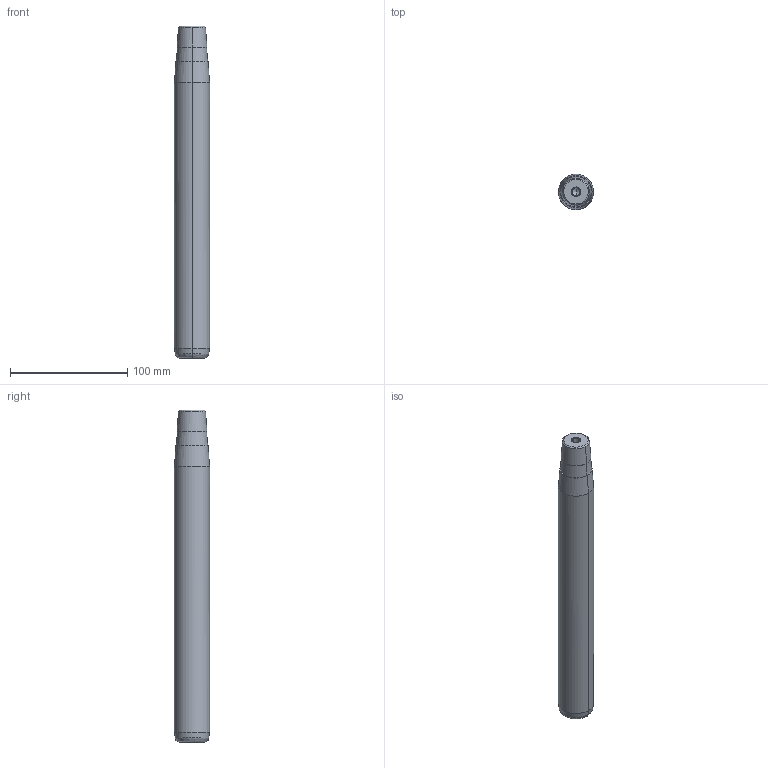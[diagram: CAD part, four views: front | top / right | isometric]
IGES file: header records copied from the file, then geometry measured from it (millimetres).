
Start section: START RECORD GO HERE.
Global section: file name: 722-30x250x283.igs; native system: DASSAULT SYSTEMES CATIA V5 R20 - www.3ds.com; preprocessor: CATIA Version 5 Release 20 ; author: Utente; organization: NB04-ASUS; date: 20210108.171618; units: millimetre
Bounding box: 30 x 30 x 283 mm (x, y, z)
Surface area: 28087.7 mm2 (no closed solid volume)
Topology: 0 solids, 0 shells, 32 faces, 192 edges, 188 vertices
Faces by surface type: revolution 30, plane 2
